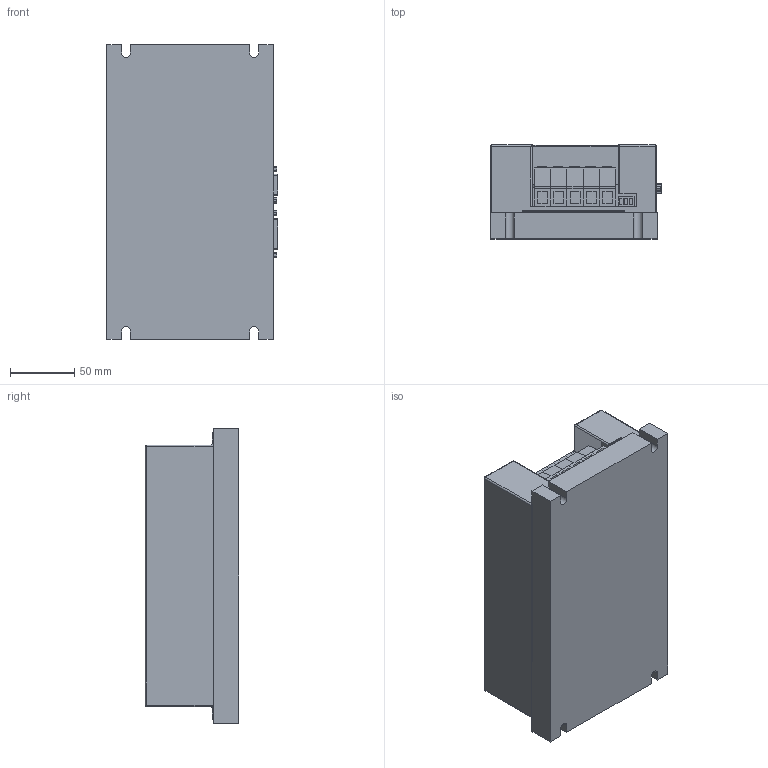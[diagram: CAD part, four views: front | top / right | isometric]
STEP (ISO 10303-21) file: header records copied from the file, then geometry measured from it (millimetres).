
FILE_DESCRIPTION (( 'STEP AP214' ), '1' );
FILE_NAME ('100200.STEP', '2022-08-16T02:14:47', ( '' ), ( '' ), 'SwSTEP 2.0', 'SolidWorks 2018', '' );
FILE_SCHEMA (( 'AUTOMOTIVE_DESIGN' ));
Length unit declared in the file: millimetre
Products named in the file (23): 100200; GONGLVVAN80_ASM; 80AWAIKE; DB26WAN; 2235; DB9WAN; DIYAKONGZHIBAN; 65ADUANZI; DUANZI111; 80AGONGLVBAN; 3PIN; KONGZHIBAN_ASM; LAN; CSNP661; PIN-1; IRFP4468; 40PIN-1_ASM; SANRENQI120X55; 40PIN-2_ASM; PIN-2; LED2; DCDC; 4PINKAIGUAN
Assembly tree (122 placements, depth 4):
  100200
    SANRENQI120X55
    GONGLVVAN80_ASM
      80AGONGLVBAN
      2235  x6
      65ADUANZI  x5
      CSNP661  x3
      3PIN
      40PIN-2_ASM
        PIN-2  x40
      IRFP4468  x12
    80AWAIKE
    KONGZHIBAN_ASM
      DIYAKONGZHIBAN
      DB9WAN
      DB26WAN
      LED2
      40PIN-1_ASM
        PIN-1  x40
      4PINKAIGUAN
      DCDC
      DUANZI111
      LAN
Bounding box: 134 x 73.06 x 230 mm (x, y, z)
Volume: 911464.6 mm3; surface area: 341812.8 mm2
Topology: 78 solids, 198 shells, 2619 faces, 6321 edges, 4242 vertices
Faces by surface type: plane 2151, cylinder 438, sphere 18, torus 12
Entity records: 33989 total; most frequent: DIRECTION 4247, CARTESIAN_POINT 4165, ORIENTED_EDGE 3870, EDGE_CURVE 1939, VECTOR 1495, LINE 1495, AXIS2_PLACEMENT_3D 1376, VERTEX_POINT 1286
